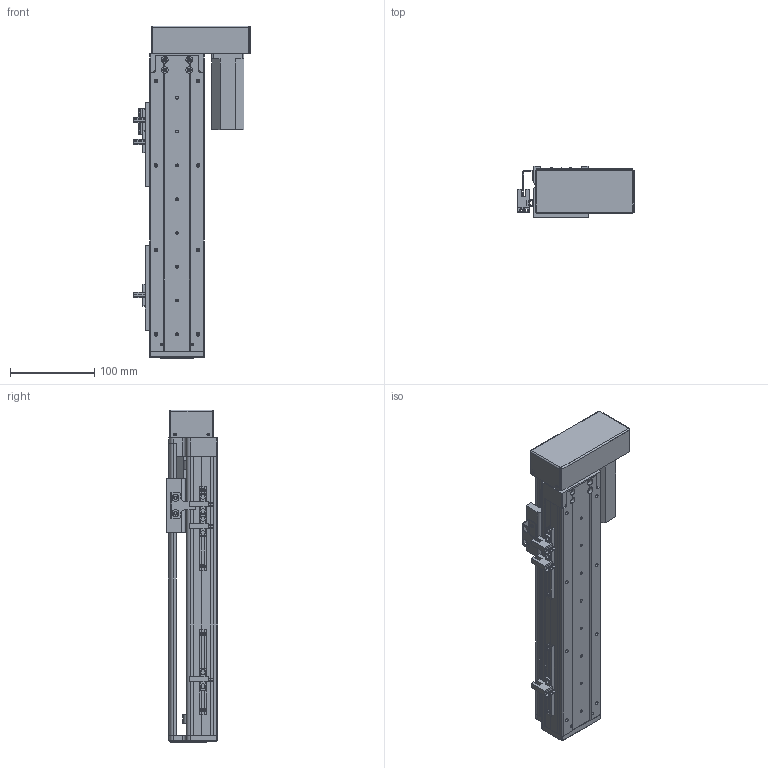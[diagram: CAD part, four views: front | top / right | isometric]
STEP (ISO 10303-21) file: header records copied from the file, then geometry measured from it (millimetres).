
FILE_DESCRIPTION (( 'STEP AP203' ), '1' );
FILE_NAME ('RY60-L1210-300-RK.SLDASM_200.step', '2021-02-20T06:52:28', ( '盈信电脑' ), ( '东莞市道滘镇水果街19号' ), 'SwSTEP 2.0', 'SolidWorks 2012', '' );
FILE_SCHEMA (( 'CONFIG_CONTROL_DESIGN' ));
Length unit declared in the file: millimetre
Products named in the file (13): RY60-L1210-300-RK.SLDASM_200; 覜茼ん672; 672嫖萇羲壽假蚾釱; RY80俋离覜茼え; RY60酘衵殏萇儂欶; RY60左右折电机安装板; 侂狟100W; RY60-300倰第裔啣-RK_200; RY60綴裔啣; 滅袉蝶18-10; RY60转折电机端支撑座; RY60-300倰第菁釱-RK_200; RY60臏賑輸
Assembly tree (18 placements, depth 2):
  RY60-L1210-300-RK.SLDASM_200
    RY60-300倰第菁釱-RK_200
    RY60臏賑輸
    RY60-300倰第裔啣-RK_200
    RY60綴裔啣
    滅袉蝶18-10  x4
    RY60转折电机端支撑座
    RY60左右折电机安装板
    侂狟100W
    RY60酘衵殏萇儂欶
    RY80俋离覜茼え
    672嫖萇羲壽假蚾釱  x2
    覜茼ん672  x3
Bounding box: 137.9 x 61 x 393 mm (x, y, z)
Volume: 633192.2 mm3; surface area: 308174.4 mm2
Topology: 18 solids, 18 shells, 1380 faces, 3830 edges, 2454 vertices
Faces by surface type: plane 697, cylinder 564, cone 102, bspline 17
Entity records: 40373 total; most frequent: CARTESIAN_POINT 9269, ORIENTED_EDGE 6240, DIRECTION 6084, EDGE_CURVE 3120, AXIS2_PLACEMENT_3D 2079, VERTEX_POINT 2034, VECTOR 1926, LINE 1926
